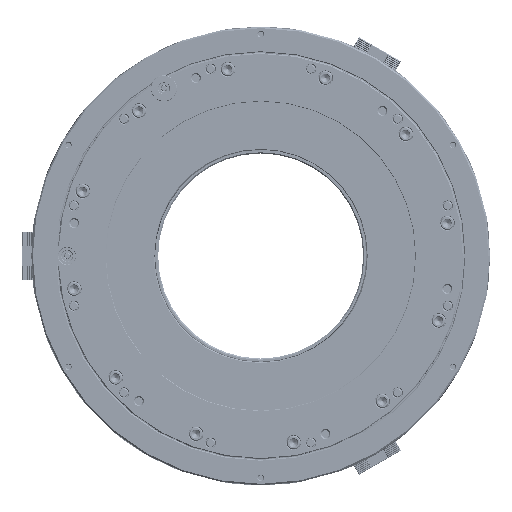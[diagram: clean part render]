
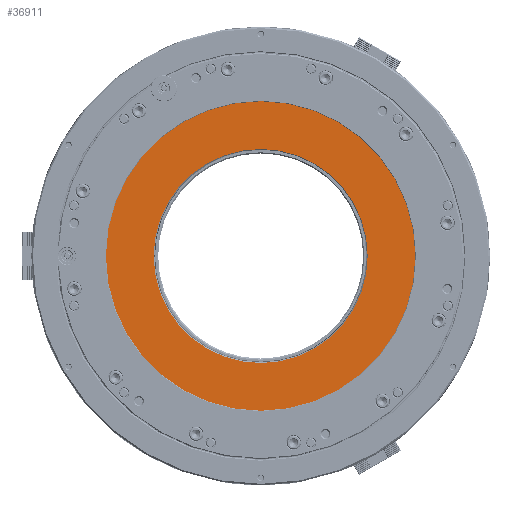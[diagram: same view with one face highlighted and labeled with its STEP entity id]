
A CAD part, left-side view. The second image highlights one B-rep face of the part: STEP entity #36911.
In plain terms, the highlighted planar face has unit normal (-1, 0, 0).
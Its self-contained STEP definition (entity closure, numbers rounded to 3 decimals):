
#607 = EDGE_LOOP ( 'NONE', ( #65082, #172060 ) ) ;
#689 = DIRECTION ( 'NONE',  ( 0., 0., -1. ) ) ;
#20255 = CARTESIAN_POINT ( 'NONE',  ( -17., 0., 0. ) ) ;
#20661 = EDGE_LOOP ( 'NONE', ( #123823, #102339 ) ) ;
#29166 = AXIS2_PLACEMENT_3D ( 'NONE', #58099, #121314, #141923 ) ;
#32633 = PLANE ( 'NONE',  #253384 ) ;
#36911 = ADVANCED_FACE ( 'NONE', ( #242738, #260666 ), #32633, .T. ) ;
#38186 = DIRECTION ( 'NONE',  ( 1., 0., 0. ) ) ;
#58099 = CARTESIAN_POINT ( 'NONE',  ( -17., 0., 0. ) ) ;
#65082 = ORIENTED_EDGE ( 'NONE', *, *, #186371, .F. ) ;
#75175 = DIRECTION ( 'NONE',  ( 0., 0., 1. ) ) ;
#75414 = CIRCLE ( 'NONE', #180732, 207.5 ) ;
#80394 = CIRCLE ( 'NONE', #233956, 207.5 ) ;
#94474 = VERTEX_POINT ( 'NONE', #122468 ) ;
#97734 = CIRCLE ( 'NONE', #154802, 143.5 ) ;
#98827 = CARTESIAN_POINT ( 'NONE',  ( -17., 0., 143.5 ) ) ;
#102339 = ORIENTED_EDGE ( 'NONE', *, *, #203921, .T. ) ;
#105381 = VERTEX_POINT ( 'NONE', #255052 ) ;
#116447 = DIRECTION ( 'NONE',  ( -1., 0., 0. ) ) ;
#121314 = DIRECTION ( 'NONE',  ( 1., 0., 0. ) ) ;
#122468 = CARTESIAN_POINT ( 'NONE',  ( -17., 0., -207.5 ) ) ;
#123006 = EDGE_CURVE ( 'NONE', #248992, #105381, #209144, .T. ) ;
#123823 = ORIENTED_EDGE ( 'NONE', *, *, #123006, .T. ) ;
#139724 = CARTESIAN_POINT ( 'NONE',  ( -17., 207.5, 0. ) ) ;
#141053 = DIRECTION ( 'NONE',  ( 0., 0., -1. ) ) ;
#141923 = DIRECTION ( 'NONE',  ( 0., 0., -1. ) ) ;
#149000 = DIRECTION ( 'NONE',  ( 1., 0., 0. ) ) ;
#151901 = CARTESIAN_POINT ( 'NONE',  ( -17., 0., 207.5 ) ) ;
#153586 = VERTEX_POINT ( 'NONE', #151901 ) ;
#154802 = AXIS2_PLACEMENT_3D ( 'NONE', #252029, #149000, #689 ) ;
#172060 = ORIENTED_EDGE ( 'NONE', *, *, #220555, .F. ) ;
#180732 = AXIS2_PLACEMENT_3D ( 'NONE', #180903, #242724, #141053 ) ;
#180903 = CARTESIAN_POINT ( 'NONE',  ( -17., 0., 0. ) ) ;
#186371 = EDGE_CURVE ( 'NONE', #94474, #153586, #80394, .T. ) ;
#187842 = DIRECTION ( 'NONE',  ( 0., 0., -1. ) ) ;
#203921 = EDGE_CURVE ( 'NONE', #105381, #248992, #97734, .T. ) ;
#209144 = CIRCLE ( 'NONE', #29166, 143.5 ) ;
#220555 = EDGE_CURVE ( 'NONE', #153586, #94474, #75414, .T. ) ;
#233956 = AXIS2_PLACEMENT_3D ( 'NONE', #20255, #38186, #187842 ) ;
#242724 = DIRECTION ( 'NONE',  ( 1., 0., 0. ) ) ;
#242738 = FACE_BOUND ( 'NONE', #20661, .T. ) ;
#248992 = VERTEX_POINT ( 'NONE', #98827 ) ;
#252029 = CARTESIAN_POINT ( 'NONE',  ( -17., 0., 0. ) ) ;
#253384 = AXIS2_PLACEMENT_3D ( 'NONE', #139724, #116447, #75175 ) ;
#255052 = CARTESIAN_POINT ( 'NONE',  ( -17., 0., -143.5 ) ) ;
#260666 = FACE_OUTER_BOUND ( 'NONE', #607, .T. ) ;
